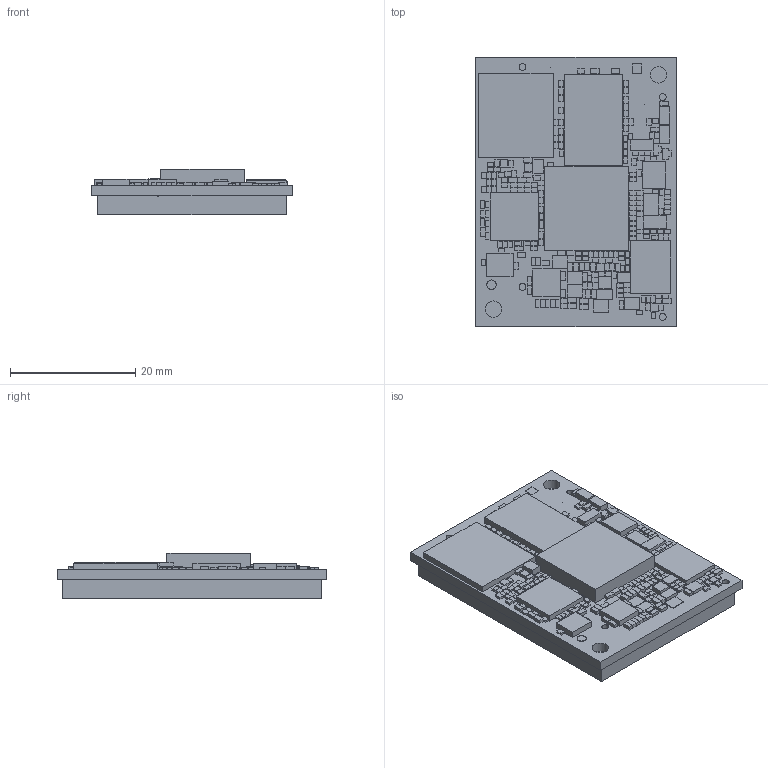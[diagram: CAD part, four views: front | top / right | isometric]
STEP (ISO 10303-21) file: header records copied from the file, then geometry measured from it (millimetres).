
FILE_DESCRIPTION(('FreeCAD Model'),'2;1');
FILE_NAME('P:/Development/PCM-071 phyCORE-AM62x/Hardware/Schematics/1573.1_2022-8-2(2)/PCB/Output/1573-1.step','2022-08-24T14:36:31',('Author'),('' ),'Open CASCADE STEP processor 7.3','FreeCAD','Unknown');
FILE_SCHEMA(('AUTOMOTIVE_DESIGN { 1 0 10303 214 1 1 1 1 }'));
Length unit declared in the file: millimetre
Products named in the file (492): _C132_; _C133_; _C128_; _C129_; _C130_; _C127_; _C131_; _C123_; _C100_; _C104_; _C105_; _C107_; _C109_; _C112_; _C106_; _C114_; _C117_; _C119_; _C120_; _C121_; _C103_; _C110_; _C122_; _C124_; _C125_; _C1_; _C126_; _C116_; _C102_; _C113_; _C101_; Board_outline; _C108_; _C111_; _C115_; _C118_; _C174_; _C193_; _C182_; _C196_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
Bounding box: 32 x 43 x 7.33 mm (x, y, z)
Volume: 7175.9 mm3; surface area: 9307.4 mm2
Topology: 492 solids, 492 shells, 2928 faces, 5832 edges, 3888 vertices
Faces by surface type: plane 2884, cylinder 44
Full cylindrical faces by diameter (mm): 1.1 x4, 2.6 x2
Entity records: 158898 total; most frequent: CARTESIAN_POINT 24541, DIRECTION 23404, LINE 17320, VECTOR 17320, ORIENTED_EDGE 11664, PCURVE 11664, DEFINITIONAL_REPRESENTATION 11664, EDGE_CURVE 5832
